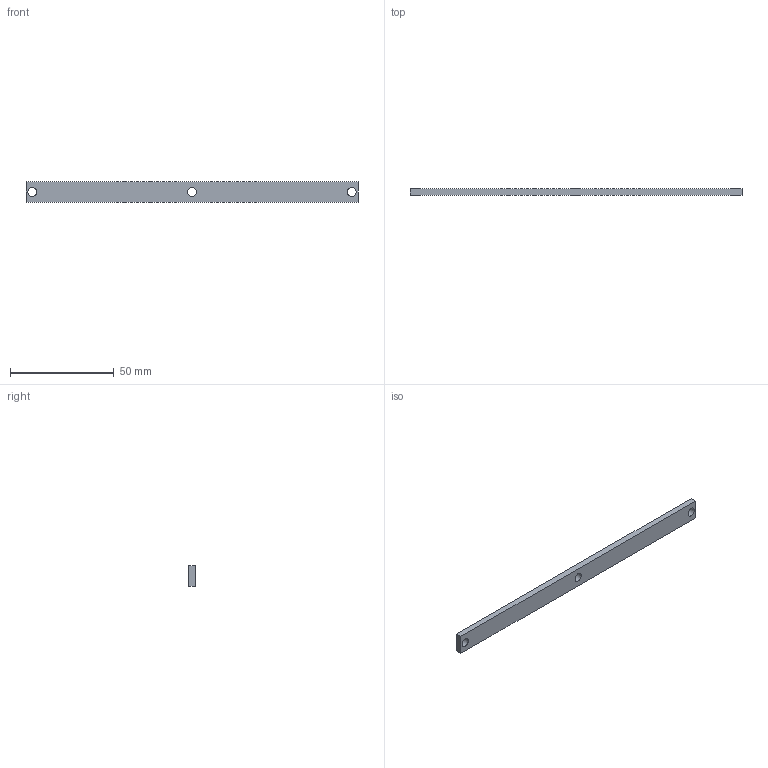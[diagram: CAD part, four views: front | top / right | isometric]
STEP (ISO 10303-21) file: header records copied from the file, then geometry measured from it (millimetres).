
FILE_DESCRIPTION(('Open CASCADE Model'),'2;1');
FILE_NAME('SCZ-ARM','2026-11-15T22:39:10',('Author'),('Open CASCADE'), 'Open CASCADE STEP processor 8.0','build123d','Unknown');
FILE_SCHEMA(('AUTOMOTIVE_DESIGN { 1 0 10303 214 1 1 1 1 }'));
Length unit declared in the file: millimetre
Products named in the file (1): SCZ-ARM
Bounding box: 160 x 3 x 10 mm (x, y, z)
Volume: 4669.3 mm3; surface area: 4254.4 mm2
Topology: 1 solids, 1 shells, 9 faces, 21 edges, 14 vertices
Faces by surface type: plane 6, cylinder 3
Full cylindrical faces by diameter (mm): 4.3 x3
Entity records: 574 total; most frequent: CARTESIAN_POINT 123, DIRECTION 83, LINE 51, VECTOR 51, ORIENTED_EDGE 42, PCURVE 42, DEFINITIONAL_REPRESENTATION 42, EDGE_CURVE 21
